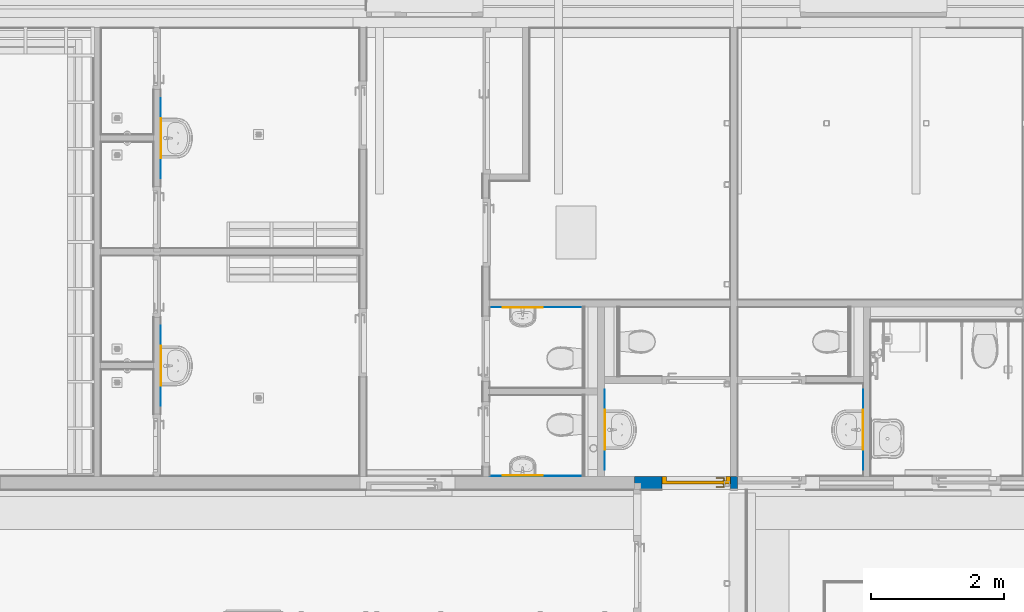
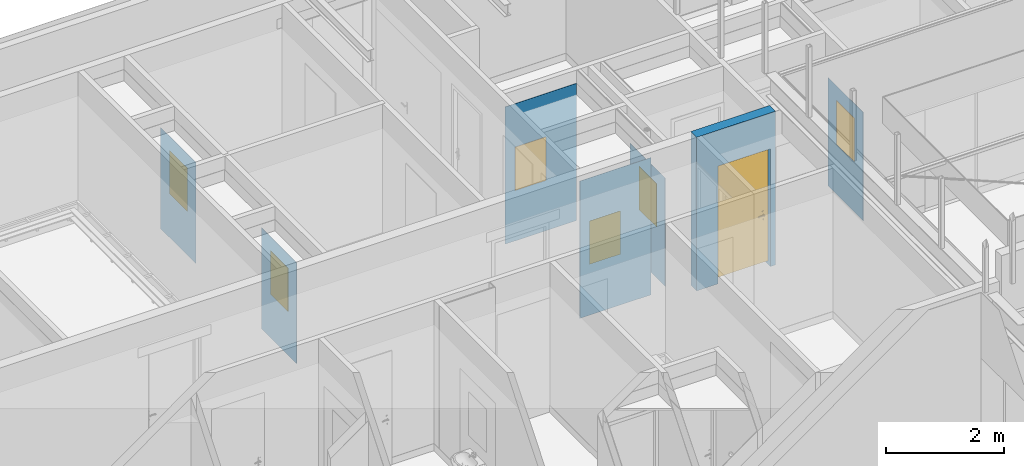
# One storey, part 10 of 788: 7 walls, 6 windows, 1 door, 7 openings.
"""IFC2X3 building model written with IfcOpenShell, lengths in millimetres."""

from ifc_helpers import new_model, entity, si_unit, converted_unit, derived_unit, money_unit, direction, frame, origin_with_axes, place, context, subcontext, project, spatial, faceted_brep, source, transform, mapped, material, type_object, type_shapes, element, fill, save


model = new_model("IFC2X3")

# Units and contexts
model_context = context("Model", 3, precision=0.01, world=origin_with_axes(), true_north=direction((0.0, 1.0)))
plan_context = context("Plan", 3, precision=0.01, world=origin_with_axes(), true_north=direction((0.0, 1.0)))
body_context = subcontext(model_context, "Body", "Model", "MODEL_VIEW")
ifc_project = project(units=[si_unit("LENGTHUNIT", "METRE", prefix="MILLI"), si_unit("AREAUNIT", "SQUARE_METRE"), si_unit("VOLUMEUNIT", "CUBIC_METRE"), converted_unit("PLANEANGLEUNIT", "DEGREE", entity("IfcPlaneAngleMeasure", 0.0174532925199), si_unit("PLANEANGLEUNIT", "RADIAN"), dimensions=[0, 0, 0, 0, 0, 0, 0]), money_unit("EUR"), converted_unit("TIMEUNIT", "Year", entity("IfcTimeMeasure", 31556926.0), si_unit("TIMEUNIT", "SECOND"), dimensions=[0, 0, 1, 0, 0, 0, 0]), si_unit("MASSUNIT", "GRAM", prefix="KILO"), si_unit("THERMODYNAMICTEMPERATUREUNIT", "DEGREE_CELSIUS"), si_unit("LUMINOUSINTENSITYUNIT", "LUMEN"), si_unit("ENERGYUNIT", "JOULE", prefix="MEGA"), derived_unit("THERMALCONDUCTANCEUNIT", [(si_unit("POWERUNIT", "WATT"), 1), (si_unit("LENGTHUNIT", "METRE"), -1), (si_unit("THERMODYNAMICTEMPERATUREUNIT", "KELVIN"), -1)]), derived_unit("SPECIFICHEATCAPACITYUNIT", [(si_unit("ENERGYUNIT", "JOULE"), 1), (si_unit("MASSUNIT", "GRAM", prefix="KILO"), -1), (si_unit("THERMODYNAMICTEMPERATUREUNIT", "KELVIN"), -1)]), derived_unit("MASSDENSITYUNIT", [(si_unit("MASSUNIT", "GRAM", prefix="KILO"), 1), (si_unit("VOLUMEUNIT", "CUBIC_METRE"), -1)])], contexts=[model_context, plan_context])

# Site, building, storey
site_placement = place(None, origin_with_axes())
site = spatial("IfcSite", under=ifc_project, at=site_placement, Name="Site", CompositionType="ELEMENT")
building_placement = place(site_placement, origin_with_axes())
building = spatial("IfcBuilding", under=site, at=building_placement, Name="Naam gebouw", CompositionType="ELEMENT")
storey_placement = place(building_placement, origin_with_axes())
storey = spatial("IfcBuildingStorey", under=building, at=storey_placement, Name="Begane grond", CompositionType="ELEMENT", Elevation=0.0)

# Wall, opening, door
ifc_material_1 = material(Name="Steen - Betonblok C 200")
wall_type_1 = type_object("IfcWallType", Name="22 Binnenwand C_betonblok 200mm 200", PredefinedType="ELEMENTEDWALL")
wall_1_placement = place(storey_placement, frame((77435.9983867, -50704.0000761, 830.0), z_axis=(0.0, 0.0, 1.0), x_axis=(-1.0, 0.0, 0.0)))
wall_1 = element("IfcWall", 1, at=wall_1_placement, inside=storey, type_object=wall_type_1, material=ifc_material_1, context=body_context, shape_type="Brep", body=[
    faceted_brep([(1134.0, 0.0, 2447.0), (1134.0, 0.0, 70.0), (1134.0, 0.0, 0.0), (1549.99621231, 0.0, 0.0), (1549.99621231, 0.0, 3190.0), (0.0, 0.0, 3190.0), (0.0, 0.0, 0.0), (100.0, 0.0, 0.0), (100.0, 0.0, 70.0), (100.0, 0.0, 2447.0), (1134.0, 200.0, 2447.0), (1134.0, 200.0, 70.0), (1134.0, 200.0, 0.0), (1549.99621231, 200.0, 0.0), (1549.99621231, 200.0, 3190.0), (0.0, 200.0, 3190.0), (0.0, 200.0, 0.0), (100.0, 200.0, 0.0), (100.0, 200.0, 70.0), (100.0, 200.0, 2447.0)], [[[0, 1, 2, 3, 4, 5, 6, 7, 8, 9]], [[1, 0, 10, 11]], [[1, 11, 12, 2]], [[2, 12, 13, 3]], [[14, 4, 3, 13]], [[5, 4, 14, 15]], [[6, 5, 15, 16]], [[17, 7, 6, 16]], [[18, 8, 7, 17]], [[9, 8, 18, 19]], [[0, 9, 19, 10]], [[19, 18, 17, 16, 15, 14, 13, 12, 11, 10]]]),
])
opening_1_placement = place(wall_1_placement, frame((617.0, 0.0, 70.0), z_axis=(0.0, 0.0, 1.0), x_axis=(1.0, 0.0, 0.0)))
opening_1 = element("IfcOpeningElement", 2, at=opening_1_placement, cuts=wall_1, Name="b1.15", context=body_context, shape_type="Brep", body=[
    faceted_brep([(517.0, 200.0, 0.0), (517.0, 200.0, 2377.0), (517.0, -400.0, 2377.0), (517.0, -400.0, 0.0), (-517.0, 200.0, 0.0), (-517.0, 200.0, 2377.0), (-517.0, -400.0, 2377.0), (-517.0, -400.0, 0.0)], [[[0, 1, 2, 3]], [[0, 4, 5, 1]], [[1, 5, 6, 2]], [[3, 2, 6, 7]], [[4, 0, 3, 7]], [[5, 4, 7, 6]]]),
])
door_style = type_object("IfcDoorStyle", Name="D1 25", ConstructionType="NOTDEFINED", OperationType="SINGLE_SWING_RIGHT", ParameterTakesPrecedence=False, Sizeable=False)
shared_shape_1 = source(origin_with_axes(), body_context, "Body", "Brep", [
    faceted_brep([(-450.0, -40.0, 0.0), (-450.0, -40.0, 2310.0), (-450.0, -114.0, 2310.0), (-450.0, -114.0, 0.0), (-467.0, -40.0, 2310.0), (-467.0, -40.0, 0.0), (-467.0, 0.0, 2310.0), (-517.0, 0.0, 2310.0), (-517.0, -114.0, 2310.0), (-517.0, -114.0, 0.0), (-517.0, 0.0, 0.0), (-467.0, 0.0, 0.0)], [[[0, 1, 2, 3]], [[4, 1, 0, 5]], [[4, 6, 7, 8, 2, 1]], [[3, 2, 8, 9]], [[5, 0, 3, 9, 10, 11]], [[6, 4, 5, 11]], [[6, 11, 10, 7]], [[10, 9, 8, 7]]]),
    faceted_brep([(467.0, -40.0, 2310.0), (450.0, -40.0, 2310.0), (450.0, -114.0, 2310.0), (517.0, -114.0, 2310.0), (517.0, 0.0, 2310.0), (467.0, 0.0, 2310.0), (467.0, -40.0, 0.0), (450.0, -40.0, 0.0), (450.0, -114.0, 0.0), (517.0, -114.0, 0.0), (517.0, 0.0, 0.0), (467.0, 0.0, 0.0)], [[[0, 1, 2, 3, 4, 5]], [[1, 0, 6, 7]], [[1, 7, 8, 2]], [[3, 2, 8, 9]], [[4, 3, 9, 10]], [[11, 5, 4, 10]], [[0, 5, 11, 6]], [[6, 11, 10, 9, 8, 7]]]),
    faceted_brep([(-467.0, 0.0, 2327.0), (-467.0, 0.0, 2310.0), (-517.0, 0.0, 2310.0), (-517.0, 0.0, 2377.0), (517.0, 0.0, 2377.0), (517.0, 0.0, 2310.0), (467.0, 0.0, 2310.0), (467.0, 0.0, 2327.0), (-467.0, -40.0, 2327.0), (-467.0, -40.0, 2310.0), (-450.0, -40.0, 2310.0), (-450.0, -114.0, 2310.0), (-517.0, -114.0, 2310.0), (-517.0, -114.0, 2377.0), (517.0, -114.0, 2377.0), (517.0, -114.0, 2310.0), (467.0, -40.0, 2310.0), (450.0, -114.0, 2310.0), (450.0, -40.0, 2310.0), (467.0, -40.0, 2327.0)], [[[0, 1, 2, 3, 4, 5, 6, 7]], [[1, 0, 8, 9]], [[9, 10, 11, 12, 2, 1]], [[2, 12, 13, 3]], [[3, 13, 14, 4]], [[4, 14, 15, 5]], [[16, 6, 5, 15, 17, 18]], [[7, 6, 16, 19]], [[0, 7, 19, 8]], [[16, 18, 10, 9, 8, 19]], [[10, 18, 17, 11]], [[17, 15, 14, 13, 12, 11]]]),
    faceted_brep([(-421.702282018, -80.0, 1006.47213595), (-417.0, -80.0, 1008.0), (-417.0, -60.0, 1008.0), (-421.702282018, -60.0, 1006.47213595), (-424.60845213, -80.0, 1002.47213595), (-424.60845213, -80.0, 997.527864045), (-421.702282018, -80.0, 993.527864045), (-417.0, -80.0, 992.0), (-412.297717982, -80.0, 993.527864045), (-409.39154787, -80.0, 997.527864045), (-409.39154787, -80.0, 1002.47213595), (-412.297717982, -80.0, 1006.47213595), (-412.297717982, -60.0, 1006.47213595), (-417.0, -58.0, 1010.0), (-422.877852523, -58.0, 1008.09016994), (-424.60845213, -60.0, 1002.47213595), (-424.60845213, -60.0, 997.527864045), (-421.702282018, -60.0, 993.527864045), (-417.0, -60.0, 992.0), (-412.297717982, -60.0, 993.527864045), (-409.39154787, -60.0, 997.527864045), (-409.39154787, -60.0, 1002.47213595), (-411.122147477, -58.0, 1008.09016994), (-417.0, -50.0, 1010.0), (-422.877852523, -50.0, 1008.09016994), (-426.510565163, -58.0, 1003.09016994), (-426.510565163, -58.0, 996.909830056), (-422.877852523, -58.0, 991.909830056), (-417.0, -58.0, 990.0), (-411.122147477, -58.0, 991.909830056), (-407.489434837, -58.0, 996.909830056), (-407.489434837, -58.0, 1003.09016994), (-411.122147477, -50.0, 1008.09016994), (-407.489434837, -50.0, 1003.09016994), (-407.489434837, -50.0, 996.909830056), (-411.122147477, -50.0, 991.909830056), (-417.0, -50.0, 990.0), (-422.877852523, -50.0, 991.909830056), (-426.510565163, -50.0, 996.909830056), (-426.510565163, -50.0, 1003.09016994)], [[[0, 1, 2, 3]], [[1, 0, 4, 5, 6, 7, 8, 9, 10, 11]], [[1, 11, 12, 2]], [[3, 2, 13, 14]], [[4, 0, 3, 15]], [[5, 4, 15, 16]], [[6, 5, 16, 17]], [[7, 6, 17, 18]], [[8, 7, 18, 19]], [[9, 8, 19, 20]], [[10, 9, 20, 21]], [[11, 10, 21, 12]], [[2, 12, 22, 13]], [[14, 13, 23, 24]], [[15, 3, 14, 25]], [[16, 15, 25, 26]], [[17, 16, 26, 27]], [[18, 17, 27, 28]], [[19, 18, 28, 29]], [[20, 19, 29, 30]], [[21, 20, 30, 31]], [[12, 21, 31, 22]], [[13, 22, 32, 23]], [[23, 32, 33, 34, 35, 36, 37, 38, 39, 24]], [[25, 14, 24, 39]], [[26, 25, 39, 38]], [[27, 26, 38, 37]], [[28, 27, 37, 36]], [[29, 28, 36, 35]], [[30, 29, 35, 34]], [[31, 30, 34, 33]], [[22, 31, 33, 32]]]),
    faceted_brep([(-404.811616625, -50.0, 1067.59695641), (-412.556444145, -50.0, 1071.95567195), (-421.443555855, -50.0, 1071.95567195), (-429.188383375, -50.0, 1067.59695641), (-433.8, -50.0, 1060.0), (-439.5, -50.0, 1060.0), (-439.5, -50.0, 840.0), (-433.8, -50.0, 840.0), (-429.188383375, -50.0, 832.403043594), (-421.443555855, -50.0, 828.044328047), (-412.556444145, -50.0, 828.044328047), (-404.811616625, -50.0, 832.403043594), (-400.2, -50.0, 840.0), (-394.5, -50.0, 840.0), (-394.5, -50.0, 1060.0), (-400.2, -50.0, 1060.0), (-417.0, -50.0, 917.425445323), (-411.624817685, -50.0, 915.143815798), (-409.532169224, -50.0, 909.692280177), (-412.0, -50.0, 904.4), (-412.0, -50.0, 887.5), (-413.464466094, -50.0, 883.964466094), (-417.0, -50.0, 882.5), (-420.535533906, -50.0, 883.964466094), (-422.0, -50.0, 887.5), (-422.0, -50.0, 904.4), (-424.467830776, -50.0, 909.692280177), (-422.375182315, -50.0, 915.143815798), (-404.811616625, -40.0, 1067.59695641), (-412.556444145, -40.0, 1071.95567195), (-421.443555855, -40.0, 1071.95567195), (-429.188383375, -40.0, 1067.59695641), (-433.8, -40.0, 1060.0), (-439.5, -40.0, 1060.0), (-439.5, -40.0, 840.0), (-433.8, -40.0, 840.0), (-429.188383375, -40.0, 832.403043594), (-421.443555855, -40.0, 828.044328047), (-412.556444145, -40.0, 828.044328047), (-404.811616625, -40.0, 832.403043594), (-400.2, -40.0, 840.0), (-394.5, -40.0, 840.0), (-394.5, -40.0, 1060.0), (-400.2, -40.0, 1060.0), (-417.0, -40.0, 917.425445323), (-411.624817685, -40.0, 915.143815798), (-409.532169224, -40.0, 909.692280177), (-412.0, -40.0, 904.4), (-412.0, -40.0, 887.5), (-413.464466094, -40.0, 883.964466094), (-417.0, -40.0, 882.5), (-420.535533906, -40.0, 883.964466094), (-422.0, -40.0, 887.5), (-422.0, -40.0, 904.4), (-424.467830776, -40.0, 909.692280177), (-422.375182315, -40.0, 915.143815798)], [[[0, 1, 2, 3, 4, 5, 6, 7, 8, 9, 10, 11, 12, 13, 14, 15], [16, 17, 18, 19, 20, 21, 22, 23, 24, 25, 26, 27]], [[1, 0, 28, 29]], [[2, 1, 29, 30]], [[3, 2, 30, 31]], [[4, 3, 31, 32]], [[5, 4, 32, 33]], [[6, 5, 33, 34]], [[7, 6, 34, 35]], [[8, 7, 35, 36]], [[9, 8, 36, 37]], [[10, 9, 37, 38]], [[11, 10, 38, 39]], [[12, 11, 39, 40]], [[13, 12, 40, 41]], [[14, 13, 41, 42]], [[15, 14, 42, 43]], [[0, 15, 43, 28]], [[17, 16, 44, 45]], [[18, 17, 45, 46]], [[19, 18, 46, 47]], [[19, 47, 48, 20]], [[20, 48, 49, 21]], [[21, 49, 50, 22]], [[22, 50, 51, 23]], [[23, 51, 52, 24]], [[53, 25, 24, 52]], [[26, 25, 53, 54]], [[27, 26, 54, 55]], [[16, 27, 55, 44]], [[40, 39, 38, 37, 36, 35, 34, 33, 32, 31, 30, 29, 28, 43, 42, 41], [54, 53, 52, 51, 50, 49, 48, 47, 46, 45, 44, 55]]]),
    faceted_brep([(-302.747, -80.0, 1007.158), (-302.747, -95.0, 1007.158), (-302.745508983, -95.0, 1007.19388416), (-302.745508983, -80.0, 1007.19388416), (-329.774630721, -80.0, 1014.32652034), (-329.774630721, -95.0, 1014.32652034), (-357.602743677, -95.0, 1017.06086405), (-385.508740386, -95.0, 1015.29002982), (-412.768, -95.0, 1009.06), (-419.170575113, -95.0, 1009.76125134), (-424.672633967, -95.0, 1006.41280843), (-426.991512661, -95.0, 1000.40385485), (-425.165167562, -95.0, 994.227352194), (-419.951302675, -95.0, 990.445773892), (-413.513017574, -95.0, 990.628000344), (-408.521392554, -95.0, 994.698430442), (-408.542, -95.0, 994.666), (-383.253286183, -95.0, 1000.19878945), (-357.410818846, -95.0, 1001.71460194), (-331.648684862, -95.0, 999.176244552), (-306.599, -95.0, 992.646), (-301.055815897, -95.0, 993.568490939), (-297.69427449, -95.0, 998.071591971), (-298.385844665, -95.0, 1003.64829442), (-298.385844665, -80.0, 1003.64829442), (-297.69427449, -80.0, 998.071591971), (-301.055815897, -80.0, 993.568490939), (-306.599, -80.0, 992.646), (-331.648684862, -80.0, 999.176244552), (-357.410818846, -80.0, 1001.71460194), (-383.253286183, -80.0, 1000.19878945), (-408.542, -80.0, 994.666), (-408.521392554, -80.0, 994.698430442), (-413.513017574, -80.0, 990.628000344), (-419.951302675, -80.0, 990.445773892), (-425.165167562, -80.0, 994.227352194), (-426.991512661, -80.0, 1000.40385485), (-424.672633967, -80.0, 1006.41280843), (-419.170575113, -80.0, 1009.76125134), (-412.768, -80.0, 1009.06), (-385.508740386, -80.0, 1015.29002982), (-357.602743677, -80.0, 1017.06086405)], [[[0, 1, 2, 3]], [[4, 5, 1, 0]], [[1, 5, 6, 7, 8, 9, 10, 11, 12, 13, 14, 15, 16, 17, 18, 19, 20, 21, 22, 23, 2]], [[3, 2, 23, 24]], [[0, 3, 24, 25, 26, 27, 28, 29, 30, 31, 32, 33, 34, 35, 36, 37, 38, 39, 40, 41, 4]], [[41, 6, 5, 4]], [[40, 7, 6, 41]], [[39, 8, 7, 40]], [[38, 9, 8, 39]], [[37, 10, 9, 38]], [[36, 11, 10, 37]], [[35, 12, 11, 36]], [[34, 13, 12, 35]], [[33, 14, 13, 34]], [[32, 15, 14, 33]], [[31, 16, 15, 32]], [[30, 17, 16, 31]], [[29, 18, 17, 30]], [[28, 19, 18, 29]], [[27, 20, 19, 28]], [[26, 21, 20, 27]], [[25, 22, 21, 26]], [[24, 23, 22, 25]]]),
    faceted_brep([(-421.702282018, 40.0, 1006.47213595), (-421.702282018, 20.0, 1006.47213595), (-417.0, 20.0, 1008.0), (-417.0, 40.0, 1008.0), (-424.60845213, 40.0, 1002.47213595), (-424.60845213, 20.0, 1002.47213595), (-422.877852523, 18.0, 1008.09016994), (-417.0, 18.0, 1010.0), (-412.297717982, 20.0, 1006.47213595), (-412.297717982, 40.0, 1006.47213595), (-409.39154787, 40.0, 1002.47213595), (-409.39154787, 40.0, 997.527864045), (-412.297717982, 40.0, 993.527864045), (-417.0, 40.0, 992.0), (-421.702282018, 40.0, 993.527864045), (-424.60845213, 40.0, 997.527864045), (-424.60845213, 20.0, 997.527864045), (-426.510565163, 18.0, 1003.09016994), (-422.877852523, 10.0, 1008.09016994), (-417.0, 10.0, 1010.0), (-411.122147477, 18.0, 1008.09016994), (-409.39154787, 20.0, 1002.47213595), (-409.39154787, 20.0, 997.527864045), (-412.297717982, 20.0, 993.527864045), (-417.0, 20.0, 992.0), (-421.702282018, 20.0, 993.527864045), (-426.510565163, 18.0, 996.909830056), (-426.510565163, 10.0, 1003.09016994), (-426.510565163, 10.0, 996.909830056), (-422.877852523, 10.0, 991.909830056), (-417.0, 10.0, 990.0), (-411.122147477, 10.0, 991.909830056), (-407.489434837, 10.0, 996.909830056), (-407.489434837, 10.0, 1003.09016994), (-411.122147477, 10.0, 1008.09016994), (-407.489434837, 18.0, 1003.09016994), (-407.489434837, 18.0, 996.909830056), (-411.122147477, 18.0, 991.909830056), (-417.0, 18.0, 990.0), (-422.877852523, 18.0, 991.909830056)], [[[0, 1, 2, 3]], [[4, 5, 1, 0]], [[1, 6, 7, 2]], [[3, 2, 8, 9]], [[3, 9, 10, 11, 12, 13, 14, 15, 4, 0]], [[15, 16, 5, 4]], [[5, 17, 6, 1]], [[6, 18, 19, 7]], [[2, 7, 20, 8]], [[9, 8, 21, 10]], [[10, 21, 22, 11]], [[11, 22, 23, 12]], [[12, 23, 24, 13]], [[13, 24, 25, 14]], [[14, 25, 16, 15]], [[16, 26, 17, 5]], [[17, 27, 18, 6]], [[19, 18, 27, 28, 29, 30, 31, 32, 33, 34]], [[7, 19, 34, 20]], [[8, 20, 35, 21]], [[21, 35, 36, 22]], [[22, 36, 37, 23]], [[23, 37, 38, 24]], [[24, 38, 39, 25]], [[25, 39, 26, 16]], [[26, 28, 27, 17]], [[39, 29, 28, 26]], [[38, 30, 29, 39]], [[37, 31, 30, 38]], [[36, 32, 31, 37]], [[35, 33, 32, 36]], [[20, 34, 33, 35]]]),
    faceted_brep([(-404.811616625, 0.0, 1067.59695641), (-412.556444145, 0.0, 1071.95567195), (-421.443555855, 0.0, 1071.95567195), (-429.188383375, 0.0, 1067.59695641), (-433.8, 0.0, 1060.0), (-439.5, 0.0, 1060.0), (-439.5, 0.0, 840.0), (-433.8, 0.0, 840.0), (-429.188383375, 0.0, 832.403043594), (-421.443555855, 0.0, 828.044328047), (-412.556444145, 0.0, 828.044328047), (-404.811616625, 0.0, 832.403043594), (-400.2, 0.0, 840.0), (-394.5, 0.0, 840.0), (-394.5, 0.0, 1060.0), (-400.2, 0.0, 1060.0), (-417.0, 0.0, 917.425445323), (-411.624817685, 0.0, 915.143815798), (-409.532169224, 0.0, 909.692280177), (-412.0, 0.0, 904.4), (-412.0, 0.0, 887.5), (-413.464466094, 0.0, 883.964466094), (-417.0, 0.0, 882.5), (-420.535533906, 0.0, 883.964466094), (-422.0, 0.0, 887.5), (-422.0, 0.0, 904.4), (-424.467830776, 0.0, 909.692280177), (-422.375182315, 0.0, 915.143815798), (-412.556444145, 10.0, 1071.95567195), (-404.811616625, 10.0, 1067.59695641), (-421.443555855, 10.0, 1071.95567195), (-429.188383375, 10.0, 1067.59695641), (-433.8, 10.0, 1060.0), (-439.5, 10.0, 1060.0), (-439.5, 10.0, 840.0), (-433.8, 10.0, 840.0), (-429.188383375, 10.0, 832.403043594), (-421.443555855, 10.0, 828.044328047), (-412.556444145, 10.0, 828.044328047), (-404.811616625, 10.0, 832.403043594), (-400.2, 10.0, 840.0), (-394.5, 10.0, 840.0), (-394.5, 10.0, 1060.0), (-400.2, 10.0, 1060.0), (-417.0, 10.0, 917.425445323), (-411.624817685, 10.0, 915.143815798), (-409.532169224, 10.0, 909.692280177), (-412.0, 10.0, 904.4), (-412.0, 10.0, 887.5), (-413.464466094, 10.0, 883.964466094), (-417.0, 10.0, 882.5), (-420.535533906, 10.0, 883.964466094), (-422.0, 10.0, 887.5), (-422.0, 10.0, 904.4), (-424.467830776, 10.0, 909.692280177), (-422.375182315, 10.0, 915.143815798)], [[[0, 1, 2, 3, 4, 5, 6, 7, 8, 9, 10, 11, 12, 13, 14, 15], [16, 17, 18, 19, 20, 21, 22, 23, 24, 25, 26, 27]], [[28, 1, 0, 29]], [[30, 2, 1, 28]], [[31, 3, 2, 30]], [[32, 4, 3, 31]], [[33, 5, 4, 32]], [[34, 6, 5, 33]], [[35, 7, 6, 34]], [[36, 8, 7, 35]], [[37, 9, 8, 36]], [[38, 10, 9, 37]], [[39, 11, 10, 38]], [[40, 12, 11, 39]], [[41, 13, 12, 40]], [[42, 14, 13, 41]], [[43, 15, 14, 42]], [[29, 0, 15, 43]], [[17, 16, 44, 45]], [[18, 17, 45, 46]], [[19, 18, 46, 47]], [[19, 47, 48, 20]], [[20, 48, 49, 21]], [[21, 49, 50, 22]], [[22, 50, 51, 23]], [[23, 51, 52, 24]], [[53, 25, 24, 52]], [[26, 25, 53, 54]], [[27, 26, 54, 55]], [[16, 27, 55, 44]], [[40, 39, 38, 37, 36, 35, 34, 33, 32, 31, 30, 28, 29, 43, 42, 41], [54, 53, 52, 51, 50, 49, 48, 47, 46, 45, 44, 55]]]),
    faceted_brep([(-302.747, 40.0, 1007.158), (-302.745508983, 40.0, 1007.19388416), (-302.745508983, 55.0, 1007.19388416), (-302.747, 55.0, 1007.158), (-329.774630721, 40.0, 1014.32652034), (-357.602743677, 40.0, 1017.06086405), (-385.508740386, 40.0, 1015.29002982), (-412.768, 40.0, 1009.06), (-419.170575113, 40.0, 1009.76125134), (-424.672633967, 40.0, 1006.41280843), (-426.991512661, 40.0, 1000.40385485), (-425.165167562, 40.0, 994.227352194), (-419.951302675, 40.0, 990.445773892), (-413.513017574, 40.0, 990.628000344), (-408.521392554, 40.0, 994.698430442), (-408.542, 40.0, 994.666), (-383.253286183, 40.0, 1000.19878945), (-357.410818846, 40.0, 1001.71460194), (-331.648684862, 40.0, 999.176244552), (-306.599, 40.0, 992.646), (-301.055815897, 40.0, 993.568490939), (-297.69427449, 40.0, 998.071591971), (-298.385844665, 40.0, 1003.64829442), (-298.385844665, 55.0, 1003.64829442), (-297.69427449, 55.0, 998.071591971), (-301.055815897, 55.0, 993.568490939), (-306.599, 55.0, 992.646), (-331.648684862, 55.0, 999.176244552), (-357.410818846, 55.0, 1001.71460194), (-383.253286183, 55.0, 1000.19878945), (-408.542, 55.0, 994.666), (-408.521392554, 55.0, 994.698430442), (-413.513017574, 55.0, 990.628000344), (-419.951302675, 55.0, 990.445773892), (-425.165167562, 55.0, 994.227352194), (-426.991512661, 55.0, 1000.40385485), (-424.672633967, 55.0, 1006.41280843), (-419.170575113, 55.0, 1009.76125134), (-412.768, 55.0, 1009.06), (-385.508740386, 55.0, 1015.29002982), (-357.602743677, 55.0, 1017.06086405), (-329.774630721, 55.0, 1014.32652034)], [[[0, 1, 2, 3]], [[0, 4, 5, 6, 7, 8, 9, 10, 11, 12, 13, 14, 15, 16, 17, 18, 19, 20, 21, 22, 1]], [[1, 22, 23, 2]], [[3, 2, 23, 24, 25, 26, 27, 28, 29, 30, 31, 32, 33, 34, 35, 36, 37, 38, 39, 40, 41]], [[4, 0, 3, 41]], [[5, 4, 41, 40]], [[6, 5, 40, 39]], [[7, 6, 39, 38]], [[8, 7, 38, 37]], [[9, 8, 37, 36]], [[10, 9, 36, 35]], [[11, 10, 35, 34]], [[12, 11, 34, 33]], [[13, 12, 33, 32]], [[14, 13, 32, 31]], [[15, 14, 31, 30]], [[16, 15, 30, 29]], [[17, 16, 29, 28]], [[18, 17, 28, 27]], [[19, 18, 27, 26]], [[20, 19, 26, 25]], [[21, 20, 25, 24]], [[22, 21, 24, 23]]]),
    faceted_brep([(467.0, 0.0, 0.0), (467.0, -40.0, 0.0), (-467.0, -40.0, 0.0), (-467.0, 0.0, 0.0), (467.0, 0.0, 2327.0), (467.0, -40.0, 2327.0), (-467.0, -40.0, 2327.0), (-467.0, 0.0, 2327.0)], [[[0, 1, 2, 3]], [[4, 5, 1, 0]], [[1, 5, 6, 2]], [[3, 2, 6, 7]], [[0, 3, 7, 4]], [[7, 6, 5, 4]]]),
])
type_shapes(door_style, [shared_shape_1])
door_placement = place(opening_1_placement, frame((-517.0, 0.0, 0.0), z_axis=(0.0, 0.0, 1.0), x_axis=(1.0, 0.0, 0.0)))
door = element("IfcDoor", 3, at=door_placement, inside=storey, type_object=door_style, Name="b1.15", ObjectType="DOOR", OverallHeight=2377.0, OverallWidth=1034.0, context=body_context, shape_type="MappedRepresentation", body=[
    mapped(shared_shape_1, transform((517.0, 114.0, 0.0))),
])
fill(opening_1, door)

# Wall, opening, window
ifc_material_2 = material(Name="AFW - Wandtegelwerk")
wall_type_2 = type_object("IfcWallType", Name="AFW - Wandtegelwerk 5", PredefinedType="ELEMENTEDWALL")
wall_2_placement = place(storey_placement, frame((68764.0127554, -45016.4596803, 1050.0), z_axis=(0.0, 0.0, 1.0), x_axis=(-1.18031806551e-09, -1.0, 0.0)))
wall_2 = element("IfcWall", 4, at=wall_2_placement, inside=storey, type_object=wall_type_2, material=ifc_material_2, Name="Wandtegelwerk", context=body_context, shape_type="Brep", body=[
    faceted_brep([(5.90461013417e-09, -5.0, 2100.0), (1200.00000001, -4.99999858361, 2100.0), (1200.0, 1.41638167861e-06, 2100.0), (0.0, 0.0, 2100.0), (5.90461013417e-09, -5.0, 0.0), (1200.00000001, -4.99999858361, 0.0), (1200.0, 1.41638167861e-06, 0.0), (0.0, 0.0, 0.0)], [[[0, 1, 2, 3]], [[4, 5, 1, 0]], [[2, 1, 5, 6]], [[3, 2, 6, 7]], [[4, 0, 3, 7]], [[7, 6, 5, 4]]]),
])
opening_2_placement = place(wall_2_placement, frame((600.0, 0.0, 900.0), z_axis=(0.0, 0.0, 1.0), x_axis=(1.0, 0.0, 0.0)))
opening_2 = element("IfcOpeningElement", 5, at=opening_2_placement, cuts=wall_2, Name="nis tbv luifel", context=body_context, shape_type="Brep", body=[
    faceted_brep([(-1.20392726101e-06, 1015.00000071, 10.0), (9.99999880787, 1005.00000072, 10.0), (9.99999880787, 1005.00000072, 0.0), (-1.20392726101e-06, 1015.00000071, 0.0), (-10.0000011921, 1005.0000007, 10.0), (-10.0000011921, 1005.0000007, 0.0)], [[[0, 1, 2, 3]], [[0, 4, 1]], [[1, 4, 5, 2]], [[3, 2, 5]], [[4, 0, 3, 5]]]),
])
window_style = type_object("IfcWindowStyle", Name="R Uitstulping 25", ConstructionType="NOTDEFINED", OperationType="NOTDEFINED", ParameterTakesPrecedence=False, Sizeable=False)
shared_shape_2 = source(origin_with_axes(), body_context, "Body", "Brep", [
    faceted_brep([(300.0, 0.0, 0.0), (300.0, 0.0, 900.0), (-300.0, 0.0, 900.0), (-300.0, 0.0, 0.0), (300.0, 5.0, 0.0), (300.0, 5.0, 900.0), (-300.0, 5.0, 900.0), (-300.0, 5.0, 0.0)], [[[0, 1, 2, 3]], [[4, 5, 1, 0]], [[1, 5, 6, 2]], [[3, 2, 6, 7]], [[0, 3, 7, 4]], [[7, 6, 5, 4]]]),
])
window_1_placement = place(opening_2_placement, frame((-300.0, 0.0, 0.0), z_axis=(0.0, 0.0, 1.0), x_axis=(1.0, 0.0, 0.0)))
window_1 = element("IfcWindow", 6, at=window_1_placement, inside=storey, type_object=window_style, material=ifc_material_2, Name="nis tbv luifel", ObjectType="WINDOW", OverallHeight=900.0, OverallWidth=600.0, context=body_context, shape_type="MappedRepresentation", body=[
    mapped(shared_shape_2, transform((299.999999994, 7.08197944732e-07, 0.0))),
])
fill(opening_2, window_1)

wall_3_placement = place(storey_placement, frame((68764.0127556, -48441.2047101, 1050.0), z_axis=(0.0, 0.0, 1.0), x_axis=(-1.18031806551e-09, -1.0, 0.0)))
wall_3 = element("IfcWall", 7, at=wall_3_placement, inside=storey, type_object=wall_type_2, material=ifc_material_2, Name="Wandtegelwerk", context=body_context, shape_type="Brep", body=[
    faceted_brep([(5.90461013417e-09, -5.0, 2100.0), (1200.00000001, -4.99999858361, 2100.0), (1200.0, 1.41638167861e-06, 2100.0), (0.0, 0.0, 2100.0), (5.90461013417e-09, -5.0, 0.0), (1200.00000001, -4.99999858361, 0.0), (1200.0, 1.41638167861e-06, 0.0), (0.0, 0.0, 0.0)], [[[0, 1, 2, 3]], [[4, 5, 1, 0]], [[2, 1, 5, 6]], [[3, 2, 6, 7]], [[4, 0, 3, 7]], [[7, 6, 5, 4]]]),
])
opening_3_placement = place(wall_3_placement, frame((600.274550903, 0.0, 900.0), z_axis=(0.0, 0.0, 1.0), x_axis=(1.0, 0.0, 0.0)))
opening_3 = element("IfcOpeningElement", 8, at=opening_3_placement, cuts=wall_3, Name="nis tbv luifel", context=body_context, shape_type="Brep", body=[
    faceted_brep([(-1.20392726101e-06, 1015.00000071, 0.0), (-10.0000011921, 1005.0000007, 0.0), (-10.0000011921, 1005.0000007, 10.0), (-1.20392726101e-06, 1015.00000071, 10.0), (9.99999880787, 1005.00000072, 0.0), (9.99999880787, 1005.00000072, 10.0)], [[[0, 1, 2, 3]], [[0, 4, 1]], [[1, 4, 5, 2]], [[3, 2, 5]], [[4, 0, 3, 5]]]),
])
shared_shape_3 = source(origin_with_axes(), body_context, "Body", "Brep", [
    faceted_brep([(-300.0, 0.0, 0.0), (300.0, 0.0, 0.0), (300.0, 0.0, 900.0), (-300.0, 0.0, 900.0), (-300.0, 5.0, 0.0), (300.0, 5.0, 0.0), (300.0, 5.0, 900.0), (-300.0, 5.0, 900.0)], [[[0, 1, 2, 3]], [[0, 4, 5, 1]], [[1, 5, 6, 2]], [[3, 2, 6, 7]], [[4, 0, 3, 7]], [[5, 4, 7, 6]]]),
])
type_shapes(window_style, [shared_shape_3, shared_shape_2])
window_2_placement = place(opening_3_placement, frame((-300.0, 0.0, 0.0), z_axis=(0.0, 0.0, 1.0), x_axis=(1.0, 0.0, 0.0)))
window_2 = element("IfcWindow", 9, at=window_2_placement, inside=storey, type_object=window_style, material=ifc_material_2, Name="nis tbv luifel", ObjectType="WINDOW", OverallHeight=900.0, OverallWidth=600.0, context=body_context, shape_type="MappedRepresentation", body=[
    mapped(shared_shape_3, transform((299.999999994, 7.08524794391e-07, 0.0))),
])
fill(opening_3, window_2)

wall_4_placement = place(storey_placement, frame((75107.9939964, -48161.95837, 900.0), z_axis=(0.0, 0.0, 1.0), x_axis=(-1.0, 0.0, 0.0)))
wall_4 = element("IfcWall", 10, at=wall_4_placement, inside=storey, type_object=wall_type_2, material=ifc_material_2, Name="Wandtegelwerk", context=body_context, shape_type="Brep", body=[
    faceted_brep([(1398.99617333, -5.0, 2850.0), (1398.99617333, 0.0, 2850.0), (-5.0, 0.0, 2850.0), (-5.0, -5.0, 2850.0), (1398.99617333, -5.0, 0.0), (1398.99617333, 0.0, 0.0), (-5.0, 0.0, 0.0), (-5.0, -5.0, 0.0)], [[[0, 1, 2, 3]], [[1, 0, 4, 5]], [[1, 5, 6, 2]], [[7, 3, 2, 6]], [[4, 0, 3, 7]], [[5, 4, 7, 6]]]),
])
opening_4_placement = place(wall_4_placement, frame((901.996173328, 0.0, 1050.0), z_axis=(0.0, 0.0, 1.0), x_axis=(1.0, 0.0, 0.0)))
opening_4 = element("IfcOpeningElement", 11, at=opening_4_placement, cuts=wall_4, Name="nis tbv luifel", context=body_context, shape_type="Brep", body=[
    faceted_brep([(0.0, 1015.0, 0.0), (-10.0, 1005.0, 0.0), (-10.0, 1005.0, 10.0), (0.0, 1015.0, 10.0), (10.0, 1005.0, 0.0), (10.0, 1005.0, 10.0)], [[[0, 1, 2, 3]], [[0, 4, 1]], [[1, 4, 5, 2]], [[3, 2, 5]], [[4, 0, 3, 5]]]),
])
window_3_placement = place(opening_4_placement, frame((-300.0, 0.0, 0.0), z_axis=(0.0, 0.0, 1.0), x_axis=(1.0, 0.0, 0.0)))
window_3 = element("IfcWindow", 12, at=window_3_placement, inside=storey, type_object=window_style, material=ifc_material_2, Name="nis tbv luifel", ObjectType="WINDOW", OverallHeight=900.0, OverallWidth=600.0, context=body_context, shape_type="MappedRepresentation", body=[
    mapped(shared_shape_3, transform((300.0, 0.0, 0.0))),
])
fill(opening_4, window_3)

wall_5_placement = place(storey_placement, frame((79327.9983867, -49404.0132312, 900.0), z_axis=(0.0, 0.0, 1.0), x_axis=(0.0, -1.0, 0.0)))
wall_5 = element("IfcWall", 13, at=wall_5_placement, inside=storey, type_object=wall_type_2, material=ifc_material_2, Name="Wandtegelwerk", context=body_context, shape_type="Brep", body=[
    faceted_brep([(0.0, 5.0, 0.0), (1200.0, 5.0, 0.0), (1200.0, 0.0, 0.0), (0.0, 0.0, 0.0), (0.0, 5.0, 2250.0), (1200.0, 5.0, 2250.0), (1200.0, 0.0, 2250.0), (0.0, 0.0, 2250.0)], [[[0, 1, 2, 3]], [[4, 5, 1, 0]], [[2, 1, 5, 6]], [[3, 2, 6, 7]], [[4, 0, 3, 7]], [[7, 6, 5, 4]]]),
])
opening_5_placement = place(wall_5_placement, frame((600.0, 0.0, 1050.0), z_axis=(0.0, 0.0, 1.0), x_axis=(1.0, 0.0, 0.0)))
opening_5 = element("IfcOpeningElement", 14, at=opening_5_placement, cuts=wall_5, Name="nis tbv luifel", context=body_context, shape_type="Brep", body=[
    faceted_brep([(0.0, -1015.0, 0.0), (10.0, -1005.0, 0.0), (10.0, -1005.0, 10.0), (0.0, -1015.0, 10.0), (-10.0, -1005.0, 0.0), (-10.0, -1005.0, 10.0)], [[[0, 1, 2, 3]], [[0, 4, 1]], [[1, 4, 5, 2]], [[3, 2, 5]], [[4, 0, 3, 5]]]),
])
window_4_placement = place(opening_5_placement, frame((300.0, 0.0, 0.0), z_axis=(0.0, 0.0, 1.0), x_axis=(-1.0, 0.0, 0.0)))
window_4 = element("IfcWindow", 15, at=window_4_placement, inside=storey, type_object=window_style, material=ifc_material_2, Name="nis tbv luifel", ObjectType="WINDOW", OverallHeight=900.0, OverallWidth=600.0, context=body_context, shape_type="MappedRepresentation", body=[
    mapped(shared_shape_3, transform((300.0, 0.0, 0.0))),
])
fill(opening_5, window_4)

wall_6_placement = place(storey_placement, frame((75443.9983867, -49404.0132312, 900.0), z_axis=(0.0, 0.0, 1.0), x_axis=(0.0, -1.0, 0.0)))
wall_6 = element("IfcWall", 16, at=wall_6_placement, inside=storey, type_object=wall_type_2, material=ifc_material_2, Name="Wandtegelwerk", context=body_context, shape_type="Brep", body=[
    faceted_brep([(0.0, -5.0, 2250.0), (1200.0, -5.0, 2250.0), (1200.0, 0.0, 2250.0), (0.0, 0.0, 2250.0), (0.0, -5.0, 0.0), (1200.0, -5.0, 0.0), (1200.0, 0.0, 0.0), (0.0, 0.0, 0.0)], [[[0, 1, 2, 3]], [[4, 5, 1, 0]], [[2, 1, 5, 6]], [[3, 2, 6, 7]], [[4, 0, 3, 7]], [[7, 6, 5, 4]]]),
])
opening_6_placement = place(wall_6_placement, frame((600.0, 0.0, 1050.0), z_axis=(0.0, 0.0, 1.0), x_axis=(1.0, 0.0, 0.0)))
opening_6 = element("IfcOpeningElement", 17, at=opening_6_placement, cuts=wall_6, Name="nis tbv luifel", context=body_context, shape_type="Brep", body=[
    faceted_brep([(0.0, 1015.0, 0.0), (-10.0, 1005.0, 0.0), (-10.0, 1005.0, 10.0), (0.0, 1015.0, 10.0), (10.0, 1005.0, 0.0), (10.0, 1005.0, 10.0)], [[[0, 1, 2, 3]], [[0, 4, 1]], [[1, 4, 5, 2]], [[3, 2, 5]], [[4, 0, 3, 5]]]),
])
window_5_placement = place(opening_6_placement, frame((-300.0, 0.0, 0.0), z_axis=(0.0, 0.0, 1.0), x_axis=(1.0, 0.0, 0.0)))
window_5 = element("IfcWindow", 18, at=window_5_placement, inside=storey, type_object=window_style, material=ifc_material_2, Name="nis tbv luifel", ObjectType="WINDOW", OverallHeight=900.0, OverallWidth=600.0, context=body_context, shape_type="MappedRepresentation", body=[
    mapped(shared_shape_3, transform((300.0, 0.0, 0.0))),
])
fill(opening_6, window_5)

wall_7_placement = place(storey_placement, frame((73713.9978231, -50695.9586407, 900.0), z_axis=(0.0, 0.0, 1.0), x_axis=(1.0, 0.0, 0.0)))
wall_7 = element("IfcWall", 19, at=wall_7_placement, inside=storey, type_object=wall_type_2, material=ifc_material_2, Name="Wandtegelwerk", context=body_context, shape_type="Brep", body=[
    faceted_brep([(1393.99617333, -5.0, 2850.0), (1393.99617333, 0.0, 2850.0), (-5.0, 0.0, 2850.0), (-5.0, -5.0, 2850.0), (1393.99617333, -5.0, 0.0), (1393.99617333, 0.0, 0.0), (-5.0, 0.0, 0.0), (-5.0, -5.0, 0.0)], [[[0, 1, 2, 3]], [[1, 0, 4, 5]], [[1, 5, 6, 2]], [[7, 3, 2, 6]], [[4, 0, 3, 7]], [[5, 4, 7, 6]]]),
])
opening_7_placement = place(wall_7_placement, frame((492.0, 0.0, 1050.0), z_axis=(0.0, 0.0, 1.0), x_axis=(1.0, 0.0, 0.0)))
opening_7 = element("IfcOpeningElement", 20, at=opening_7_placement, cuts=wall_7, Name="nis tbv luifel", context=body_context, shape_type="Brep", body=[
    faceted_brep([(0.0, 1015.0, 10.0), (10.0, 1005.0, 10.0), (10.0, 1005.0, 0.0), (0.0, 1015.0, 0.0), (-10.0, 1005.0, 10.0), (-10.0, 1005.0, 0.0)], [[[0, 1, 2, 3]], [[0, 4, 1]], [[1, 4, 5, 2]], [[3, 2, 5]], [[4, 0, 3, 5]]]),
])
window_6_placement = place(opening_7_placement, frame((-300.0, 0.0, 0.0), z_axis=(0.0, 0.0, 1.0), x_axis=(1.0, 0.0, 0.0)))
window_6 = element("IfcWindow", 21, at=window_6_placement, inside=storey, type_object=window_style, material=ifc_material_2, Name="nis tbv luifel", ObjectType="WINDOW", OverallHeight=900.0, OverallWidth=600.0, context=body_context, shape_type="MappedRepresentation", body=[
    mapped(shared_shape_2, transform((300.0, 0.0, 0.0))),
])
fill(opening_7, window_6)

save(model, "model.ifc")
